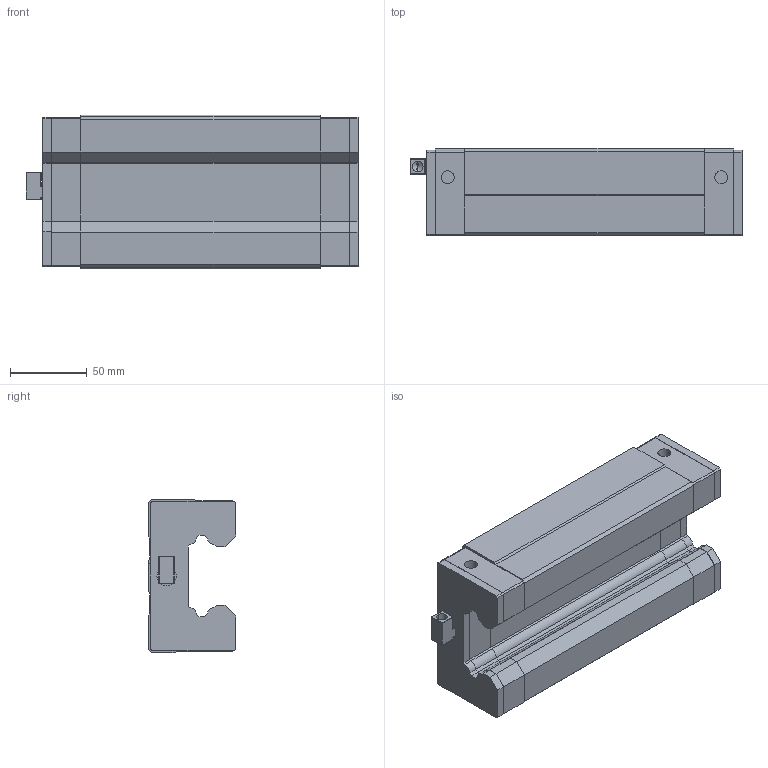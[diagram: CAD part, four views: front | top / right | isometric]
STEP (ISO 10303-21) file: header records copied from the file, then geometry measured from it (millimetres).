
FILE_DESCRIPTION (( 'STEP AP203' ), '1' );
FILE_NAME ('SGL55HA.STEP', '2025-06-27T05:41:19', ( 'Owner' ), ( 'Organization' ), 'SwSTEP 2.0', 'SolidWorks 2020', '' );
FILE_SCHEMA (( 'CONFIG_CONTROL_DESIGN' ));
Length unit declared in the file: millimetre
Products named in the file (1): SGL55HA
Bounding box: 215.8 x 57 x 100 mm (x, y, z)
Volume: 844990.6 mm3; surface area: 124163.7 mm2
Topology: 7 solids, 7 shells, 364 faces, 929 edges, 589 vertices
Faces by surface type: plane 262, cylinder 82, cone 20
Entity records: 10852 total; most frequent: CARTESIAN_POINT 1891, ORIENTED_EDGE 1838, DIRECTION 1819, EDGE_CURVE 919, VECTOR 737, LINE 737, VERTEX_POINT 589, AXIS2_PLACEMENT_3D 541
